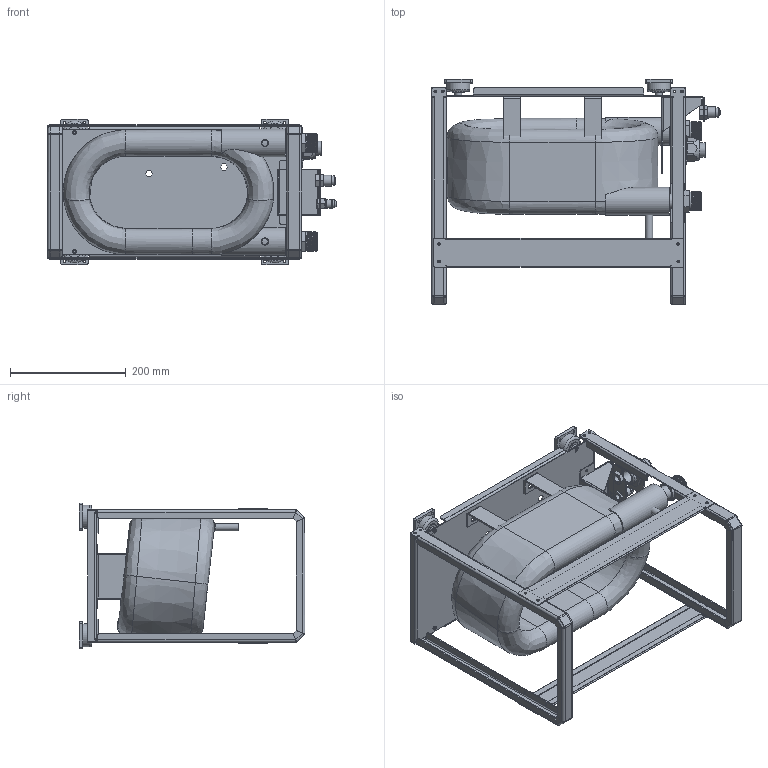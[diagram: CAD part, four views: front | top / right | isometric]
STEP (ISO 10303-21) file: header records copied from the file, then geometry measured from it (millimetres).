
FILE_DESCRIPTION(/* description */ ('VRT08X1-2V - 230VAC'),/* implementation_level */ '2;1');
FILE_NAME(/* name */ 'VRT-08-X1-002.stp',/* time_stamp */ '2025-01-24T12:52:36+01:00',/* author */ ('CAD 1'),/* organization */ (''),/* preprocessor_version */ 'ST-DEVELOPER v20',/* originating_system */ 'Autodesk Inventor 2024',/* authorisation */ 'D.Z.');
FILE_SCHEMA (('AUTOMOTIVE_DESIGN { 1 0 10303 214 3 1 1 }'));
Products named in the file (25): VRT-08-X1-002; PIE01-0000002; PIE01-0000002_01; PIE01-0000002_02; PIE01-0000002_04; PIE01-0000002_03; MIN01-0000046; MIN01-0000045; VRT-000000213; VRT-000000150; VRT-000000149; VRT-000000152; VRT-000000154; VRT-000000155; VRT-000000156; VRT-000000157; VRT-05-000002; VRT-000000064; VRT-000000064_01; HEX01-0000002; VRT-000000208; RAI01-0000004; VRT-000000207; RAI01-0000002; ELT01-0000004
Assembly tree (28 placements, depth 4):
  VRT-08-X1-002
    PIE01-0000002  x4
      PIE01-0000002_01
      PIE01-0000002_02
      PIE01-0000002_04
      PIE01-0000002_03
      MIN01-0000046
      MIN01-0000045
    VRT-000000213
      VRT-000000150
    VRT-000000149
    VRT-000000152
    VRT-000000154
    VRT-000000155
    VRT-000000156  x2
    VRT-000000157
    VRT-05-000002
      VRT-000000064
        VRT-000000064_01
        HEX01-0000002
      VRT-000000208
        RAI01-0000004
      VRT-000000207
        RAI01-0000002
    ELT01-0000004
Bounding box: 498.16 x 389.68 x 252 mm (x, y, z)
Volume: 2904481.4 mm3; surface area: 2038850.3 mm2
Topology: 44 solids, 45 shells, 1494 faces, 3601 edges, 2237 vertices
Faces by surface type: plane 787, cylinder 485, bspline 161, cone 40, torus 21
Full cylindrical faces by diameter (mm): 3.242 x27, 3.5 x4, 4.2 x2, 4.5 x36, 5 x4, 6 x4, 6.5 x8, 8 x1, 10 x9, 10.2 x1, 10.7 x2, 12 x8, 12.2 x1, 12.7 x4, 13.5 x1, 15 x1, 16.5 x1, 19 x1, 21 x8, 21.7 x1, 23 x2, 24 x8, 24.8 x1, 25 x4, 25.5 x4, 31 x10, 32 x2, 32.8 x1, 33 x22, 33.1 x1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
Entity records: 89420 total; most frequent: CARTESIAN_POINT 58737, ORIENTED_EDGE 6232, DIRECTION 5883, EDGE_CURVE 3116, AXIS2_PLACEMENT_3D 2018, VERTEX_POINT 1924, LINE 1847, VECTOR 1847
